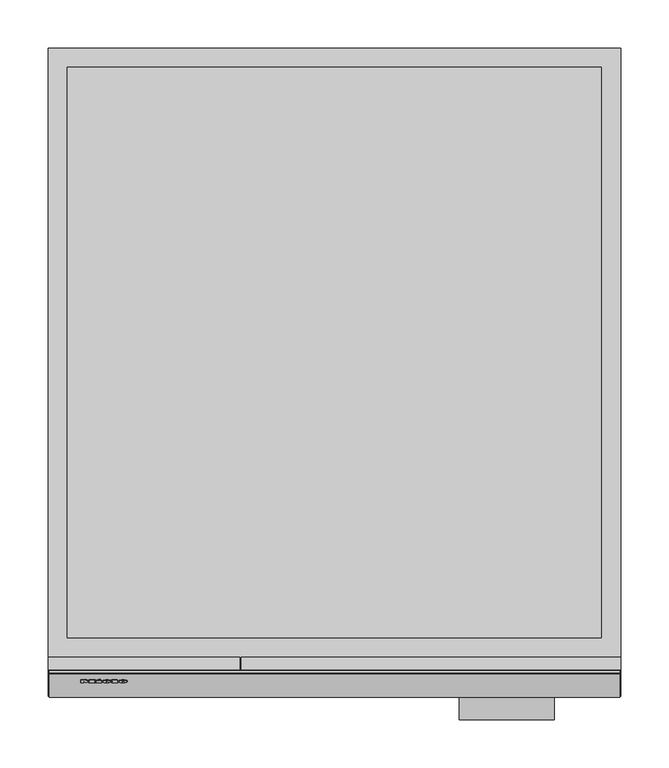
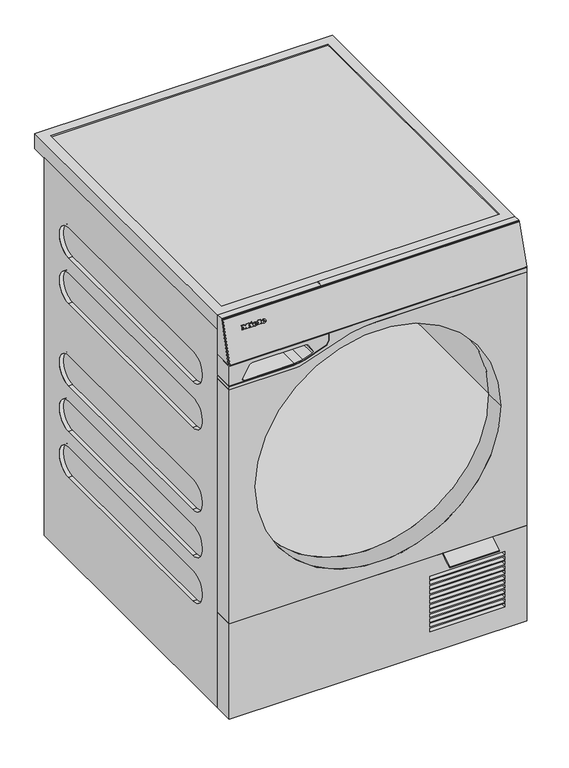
"""IFC4 building model written with IfcOpenShell, lengths in millimetres: proxy geometry, 12695010_EU3_WQ1200WPS_LW : 11Q12002_EU3_12695010_WQ1200WPS_LW."""

from ifc_helpers import new_model, si_unit, point, frame, frame_2d, origin, origin_with_axes, place, context, project, spatial, polyline, circle_curve, ellipse_curve, trimmed, segment, composite_curve, outline, extrude, source, transform, mapped, element, save
from ifc_brep_helpers import plane_surface, cylinder_surface, revolved_surface, extruded_surface, advanced_brep


def specialty_equipment_bc237cf9(model_context):
    return source(origin(), model_context, "Body", "SolidModel", [
        extrude(outline(polyline([(0.0, 0.0), (0.0, -1.304), (-5.576, -1.304), (-7.92, 1.6960001), (-10.256, -1.304), (-15.128, -1.304), (-15.128, 0.0), (-14.112, 0.0), (-14.112, 5.3520001), (-15.128, 5.3520001), (-15.128, 6.6960001), (-8.744, 6.6960001), (-8.744, 5.3520001), (-9.728, 5.3520001), (-9.728, 1.8807777), (-6.136, 6.6960001), (-2.56, 1.9488753), (-2.56, 5.3520001), (-3.52, 5.3520001), (-3.52, 6.6960001), (0.0, 6.6960001), (0.0, 5.3520001), (-0.968, 5.3520001), (-0.968, 0.0), (0.0, 0.0)])), frame((-264.1667108, -657.425371, 823.5606192), z_axis=(0.0, -0.9563047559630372, 0.2923717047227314), x_axis=(-1.0, 0.0, 0.0)), (0.0, 0.0, 1.0), 1.0),
        extrude(outline(polyline([(0.0, 0.0), (0.0, -1.304), (-5.504, -1.304), (-5.504, 5.3520001), (-6.488, 5.3520001), (-6.488, 6.6960001), (0.0, 6.6960001), (0.0, 5.3520001), (-0.96, 5.3520001), (-0.96, 0.0), (0.0, 0.0)])), frame((-231.7027108, -657.425371, 823.5606192), z_axis=(0.0, -0.9563047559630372, 0.2923717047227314), x_axis=(-1.0, 0.0, 0.0)), (0.0, 0.0, 1.0), 1.0),
        extrude(outline(polyline([(0.0, 0.0), (-0.0109086, -2.9993294), (-1.4390415, -2.9920868), (-1.4315307, 0.0), (0.0, 0.0)])), frame((-246.2467108, -657.1821178, 824.3562648), z_axis=(0.0, -0.9563047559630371, 0.29237170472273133), x_axis=(-0.4247202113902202, 0.2646913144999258, 0.8657662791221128)), (0.0, 0.0, 1.0), 1.0),
        extrude(outline(polyline([(-0.4933907, 2.4141097), (-2.7800844, -2.4601583), (-7.0459743, -0.4588766), (-7.4401146, -1.2990179), (-8.656871, -0.7281939), (-5.976037, 4.9862153), (-4.7592806, 4.4153914), (-5.1636143, 3.5535223), (-2.1941494, 2.16044), (-1.7898157, 3.0223091), (-0.4933907, 2.4141097)])), frame((-246.2467108, -657.1821178, 824.3562648), z_axis=(0.0, -0.9563047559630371, 0.29237170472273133), x_axis=(-0.4247202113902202, 0.2646913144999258, 0.8657662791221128)), (0.0, 0.0, 1.0), 1.0),
        advanced_brep(
        [(-237.5027108, -659.78506, 819.2627281), (-237.5027108, -659.5488236, 820.0354223), (-232.1507108, -659.5488236, 820.0354223), (-241.4627108, -659.5488236, 820.0354223), (-239.2627108, -660.3393967, 817.4495743), (-232.2867108, -659.78506, 819.2627281), (-234.7027108, -659.78506, 819.2627281), (-236.6067108, -660.047025, 818.405879), (-237.5027108, -659.249435, 821.0146784), (-237.5027108, -658.9944869, 821.8485761), (-236.1347108, -658.9944869, 821.8485761), (-236.1347108, -659.249435, 821.0146784), (-237.5027108, -658.8287552, 818.9703564), (-236.6067108, -659.0907203, 818.1135073), (-234.7027108, -658.8287552, 818.9703564), (-232.2867108, -658.8287552, 818.9703564), (-239.2627108, -659.383092, 817.1572025), (-241.4627108, -658.5925189, 819.7430506), (-232.1507108, -658.5925189, 819.7430506), (-237.5027108, -658.5925189, 819.7430506), (-237.5027108, -658.2931303, 820.7223067), (-236.1347108, -658.2931303, 820.7223067), (-236.1347108, -658.0381821, 821.5562044), (-237.5027108, -658.0381821, 821.5562044)],
        [
            (0, 1),
            (1, 2),
            (2, 3, ellipse_curve(frame((-236.8067108, -659.5488236, 820.0354223), z_axis=(0.0, -0.9563047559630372, 0.2923717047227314), x_axis=(-1.0, 0.0, 0.0)), 4.656, 3.848)),
            (3, 4, circle_curve(frame((-238.3666672, -659.4692985, 820.2955372), z_axis=(0.0, -0.9563047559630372, 0.2923717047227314), x_axis=(0.0, -0.2923717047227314, -0.9563047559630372)), 3.1079688)),
            (4, 5, circle_curve(frame((-236.8999173, -658.8518095, 822.3152529), z_axis=(0.0, -0.9563047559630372, 0.2923717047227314), x_axis=(0.0, -0.2923717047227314, -0.9563047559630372)), 5.6098607)),
            (5, 6),
            (6, 7, circle_curve(frame((-236.215652, -659.5675354, 819.9742188), z_axis=(0.0, 0.9563047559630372, -0.2923717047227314), x_axis=(0.0, -0.2923717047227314, -0.9563047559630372)), 1.6859795)),
            (7, 0, circle_curve(frame((-236.6067108, -659.78506, 819.2627281), z_axis=(0.0, 0.9563047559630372, -0.2923717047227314), x_axis=(0.0, -0.2923717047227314, -0.9563047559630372)), 0.896)),
            (8, 9),
            (9, 10, circle_curve(frame((-236.8187108, -658.9944869, 821.8485761), z_axis=(0.0, 0.9563047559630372, -0.2923717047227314), x_axis=(0.0, -0.2923717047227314, -0.9563047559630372)), 0.684)),
            (10, 11),
            (11, 8),
            (12, 13, circle_curve(frame((-236.6067108, -658.8287552, 818.9703564), z_axis=(0.0, -0.9563047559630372, 0.2923717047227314), x_axis=(0.0, -0.2923717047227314, -0.9563047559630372)), 0.896)),
            (13, 14, circle_curve(frame((-236.215652, -658.6112307, 819.6818471), z_axis=(0.0, -0.9563047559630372, 0.2923717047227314), x_axis=(0.0, -0.2923717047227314, -0.9563047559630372)), 1.6859795)),
            (14, 15),
            (15, 16, circle_curve(frame((-236.8999173, -657.8955047, 822.0228811), z_axis=(0.0, 0.9563047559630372, -0.2923717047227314), x_axis=(0.0, -0.2923717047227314, -0.9563047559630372)), 5.6098607)),
            (16, 17, circle_curve(frame((-238.3666672, -658.5129938, 820.0031655), z_axis=(0.0, 0.9563047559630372, -0.2923717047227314), x_axis=(0.0, -0.2923717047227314, -0.9563047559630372)), 3.1079688)),
            (17, 18, ellipse_curve(frame((-236.8067108, -658.5925189, 819.7430506), z_axis=(0.0, 0.9563047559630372, -0.2923717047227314), x_axis=(-1.0, 0.0, 0.0)), 4.656, 3.848)),
            (18, 19),
            (19, 12),
            (20, 21),
            (21, 22),
            (22, 23, circle_curve(frame((-236.8187108, -658.0381821, 821.5562044), z_axis=(0.0, -0.9563047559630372, 0.2923717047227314), x_axis=(0.0, -0.2923717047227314, -0.9563047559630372)), 0.684)),
            (23, 20),
            (0, 12),
            (19, 1),
            (18, 2),
            (5, 15),
            (14, 6),
            (17, 3),
            (13, 7),
            (16, 4),
            (8, 20),
            (23, 9),
            (22, 10),
            (21, 11),
        ],
        [
            plane_surface(frame((-237.5027108, -659.5488236, 820.0354223), z_axis=(0.0, -0.9563047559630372, 0.29237170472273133), x_axis=(0.0, 0.29237170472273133, 0.9563047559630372))),
            plane_surface(frame((-237.5027108, -658.5925189, 819.7430506), z_axis=(0.0, 0.9563047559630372, -0.29237170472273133), x_axis=(0.0, -0.29237170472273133, -0.9563047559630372))),
            plane_surface(frame((-237.5027108, -659.78506, 819.2627281), z_axis=(1.0, 0.0, 0.0), x_axis=(0.0, 0.9563047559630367, -0.2923717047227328))),
            plane_surface(frame((-237.5027108, -659.5488236, 820.0354223), z_axis=(0.0, -0.2923717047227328, -0.9563047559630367), x_axis=(0.0, 0.9563047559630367, -0.2923717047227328))),
            plane_surface(frame((-232.2867108, -659.78506, 819.2627281), z_axis=(0.0, 0.2923717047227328, 0.9563047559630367), x_axis=(0.0, 0.9563047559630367, -0.2923717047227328))),
            extruded_surface(trimmed(ellipse_curve(frame((-236.8067108, -657.6362141, 819.4506789), z_axis=(0.0, -0.9563047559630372, 0.2923717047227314), x_axis=(-1.0, 0.0, 0.0)), 4.656, 3.848), [point((-232.1507108, -657.6362141, 819.4506789))], [point((-241.4627108, -657.6362141, 819.4506789))], True, "CARTESIAN"), (0.0, -0.9563047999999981, 0.2923716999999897), 1.0000000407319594),
            revolved_surface(polyline([(-236.215652, -659.1041633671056, 818.0695368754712), (-236.215652, -660.0604681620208, 818.3619085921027)]), (-236.215652, -658.6112307, 819.6818471), (0.0, 0.9563047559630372, -0.2923717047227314)),
            revolved_surface(polyline([(-236.6067108, -659.0907202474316, 818.1135073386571), (-236.6067108, -660.0470250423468, 818.4058790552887)]), (-236.6067108, -658.8287552, 818.9703564), (0.0, 0.9563047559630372, -0.2923717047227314)),
            cylinder_surface(frame((-238.3666672, -658.5129938, 820.0031655), z_axis=(0.0, -0.9563047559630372, 0.2923717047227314), x_axis=(0.0, -0.2923717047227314, -0.9563047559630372)), 3.1079688),
            cylinder_surface(frame((-236.8999173, -657.8955047, 822.0228811), z_axis=(0.0, -0.9563047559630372, 0.2923717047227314), x_axis=(0.0, -0.2923717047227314, -0.9563047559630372)), 5.6098607),
            plane_surface(frame((-237.5027108, -659.249435, 821.0146784), z_axis=(1.0, 0.0, 0.0), x_axis=(0.0, 0.9563047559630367, -0.2923717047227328))),
            revolved_surface(polyline([(-236.8187108, -658.2381643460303, 820.9020919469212), (-236.8187108, -659.1944691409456, 821.1944636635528)]), (-236.8187108, -658.0381821, 821.5562044), (0.0, 0.9563047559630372, -0.2923717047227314)),
            plane_surface(frame((-236.1347108, -658.9944869, 821.8485761), z_axis=(-1.0, 0.0, 0.0), x_axis=(0.0, 0.9563047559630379, -0.29237170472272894))),
            plane_surface(frame((-236.1347108, -659.249435, 821.0146784), z_axis=(0.0, 0.2923717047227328, 0.9563047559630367), x_axis=(0.0, 0.9563047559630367, -0.2923717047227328))),
        ],
        [
            (0, [[1, 2, 3, 4, 5, 6, 7, 8], [9, 10, 11, 12]]),
            (1, [[13, 14, 15, 16, 17, 18, 19, 20], [21, 22, 23, 24]]),
            (2, [[-1, 25, -20, 26]]),
            (3, [[-2, -26, -19, 27]]),
            (4, [[-6, 28, -15, 29]]),
            (5, [[-3, -27, -18, 30]]),
            (6, [[-7, -29, -14, 31]]),
            (7, [[-8, -31, -13, -25]]),
            (8, [[-4, -30, -17, 32]]),
            (9, [[-5, -32, -16, -28]]),
            (10, [[-9, 33, -24, 34]]),
            (11, [[-10, -34, -23, 35]]),
            (12, [[-11, -35, -22, 36]]),
            (13, [[-12, -36, -21, -33]]),
        ],
    ),
        advanced_brep(
        [(-220.8067108, -659.78506, 819.2627281), (-220.8067108, -659.5488236, 820.0354223), (-215.4547108, -659.5488236, 820.0354223), (-224.7667108, -659.5488236, 820.0354223), (-222.5667108, -660.3393967, 817.4495743), (-215.5907108, -659.78506, 819.2627281), (-218.0067108, -659.78506, 819.2627281), (-219.9107108, -660.047025, 818.405879), (-220.8067108, -659.249435, 821.0146784), (-220.8067108, -658.9944869, 821.8485761), (-219.4387108, -658.9944869, 821.8485761), (-219.4387108, -659.249435, 821.0146784), (-220.8067108, -658.8287552, 818.9703564), (-219.9107108, -659.0907203, 818.1135073), (-218.0067108, -658.8287552, 818.9703564), (-215.5907108, -658.8287552, 818.9703564), (-222.5667108, -659.383092, 817.1572025), (-224.7667108, -658.5925189, 819.7430506), (-215.4547108, -658.5925189, 819.7430506), (-220.8067108, -658.5925189, 819.7430506), (-220.8067108, -658.2931303, 820.7223067), (-219.4387108, -658.2931303, 820.7223067), (-219.4387108, -658.0381821, 821.5562044), (-220.8067108, -658.0381821, 821.5562044)],
        [
            (0, 1),
            (1, 2),
            (2, 3, ellipse_curve(frame((-220.1107108, -659.5488236, 820.0354223), z_axis=(0.0, -0.9563047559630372, 0.2923717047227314), x_axis=(-1.0, 0.0, 0.0)), 4.656, 3.848)),
            (3, 4, circle_curve(frame((-221.6706672, -659.4692985, 820.2955372), z_axis=(0.0, -0.9563047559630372, 0.2923717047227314), x_axis=(0.0, -0.2923717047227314, -0.9563047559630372)), 3.1079688)),
            (4, 5, circle_curve(frame((-220.2039173, -658.8518095, 822.3152529), z_axis=(0.0, -0.9563047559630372, 0.2923717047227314), x_axis=(0.0, -0.2923717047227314, -0.9563047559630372)), 5.6098607)),
            (5, 6),
            (6, 7, circle_curve(frame((-219.519652, -659.5675354, 819.9742188), z_axis=(0.0, 0.9563047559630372, -0.2923717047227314), x_axis=(0.0, -0.2923717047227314, -0.9563047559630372)), 1.6859795)),
            (7, 0, circle_curve(frame((-219.9107108, -659.78506, 819.2627281), z_axis=(0.0, 0.9563047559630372, -0.2923717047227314), x_axis=(0.0, -0.2923717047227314, -0.9563047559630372)), 0.896)),
            (8, 9),
            (9, 10, circle_curve(frame((-220.1227108, -658.9944869, 821.8485761), z_axis=(0.0, 0.9563047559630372, -0.2923717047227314), x_axis=(0.0, -0.2923717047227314, -0.9563047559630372)), 0.684)),
            (10, 11),
            (11, 8),
            (12, 13, circle_curve(frame((-219.9107108, -658.8287552, 818.9703564), z_axis=(0.0, -0.9563047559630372, 0.2923717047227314), x_axis=(0.0, -0.2923717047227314, -0.9563047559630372)), 0.896)),
            (13, 14, circle_curve(frame((-219.519652, -658.6112307, 819.6818471), z_axis=(0.0, -0.9563047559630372, 0.2923717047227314), x_axis=(0.0, -0.2923717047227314, -0.9563047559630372)), 1.6859795)),
            (14, 15),
            (15, 16, circle_curve(frame((-220.2039173, -657.8955047, 822.0228811), z_axis=(0.0, 0.9563047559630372, -0.2923717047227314), x_axis=(0.0, -0.2923717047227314, -0.9563047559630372)), 5.6098607)),
            (16, 17, circle_curve(frame((-221.6706672, -658.5129938, 820.0031655), z_axis=(0.0, 0.9563047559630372, -0.2923717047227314), x_axis=(0.0, -0.2923717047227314, -0.9563047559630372)), 3.1079688)),
            (17, 18, ellipse_curve(frame((-220.1107108, -658.5925189, 819.7430506), z_axis=(0.0, 0.9563047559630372, -0.2923717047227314), x_axis=(-1.0, 0.0, 0.0)), 4.656, 3.848)),
            (18, 19),
            (19, 12),
            (20, 21),
            (21, 22),
            (22, 23, circle_curve(frame((-220.1227108, -658.0381821, 821.5562044), z_axis=(0.0, -0.9563047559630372, 0.2923717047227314), x_axis=(0.0, -0.2923717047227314, -0.9563047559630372)), 0.684)),
            (23, 20),
            (0, 12),
            (19, 1),
            (18, 2),
            (5, 15),
            (14, 6),
            (17, 3),
            (13, 7),
            (16, 4),
            (8, 20),
            (23, 9),
            (22, 10),
            (21, 11),
        ],
        [
            plane_surface(frame((-220.8067108, -659.5488236, 820.0354223), z_axis=(0.0, -0.9563047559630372, 0.29237170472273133), x_axis=(0.0, 0.29237170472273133, 0.9563047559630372))),
            plane_surface(frame((-220.8067108, -658.5925189, 819.7430506), z_axis=(0.0, 0.9563047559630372, -0.29237170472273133), x_axis=(0.0, -0.29237170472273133, -0.9563047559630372))),
            plane_surface(frame((-220.8067108, -659.78506, 819.2627281), z_axis=(1.0, 0.0, 0.0), x_axis=(0.0, 0.9563047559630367, -0.2923717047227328))),
            plane_surface(frame((-220.8067108, -659.5488236, 820.0354223), z_axis=(0.0, -0.2923717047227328, -0.9563047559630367), x_axis=(0.0, 0.9563047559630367, -0.2923717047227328))),
            plane_surface(frame((-215.5907108, -659.78506, 819.2627281), z_axis=(0.0, 0.2923717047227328, 0.9563047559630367), x_axis=(0.0, 0.9563047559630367, -0.2923717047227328))),
            extruded_surface(trimmed(ellipse_curve(frame((-220.1107108, -657.6362141, 819.4506789), z_axis=(0.0, -0.9563047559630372, 0.2923717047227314), x_axis=(-1.0, 0.0, 0.0)), 4.656, 3.848), [point((-215.4547108, -657.6362141, 819.4506789))], [point((-224.7667108, -657.6362141, 819.4506789))], True, "CARTESIAN"), (0.0, -0.9563047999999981, 0.2923716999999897), 1.0000000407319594),
            revolved_surface(polyline([(-219.519652, -659.1041633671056, 818.0695368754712), (-219.519652, -660.0604681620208, 818.3619085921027)]), (-219.519652, -658.6112307, 819.6818471), (0.0, 0.9563047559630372, -0.2923717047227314)),
            revolved_surface(polyline([(-219.9107108, -659.0907202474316, 818.1135073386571), (-219.9107108, -660.0470250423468, 818.4058790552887)]), (-219.9107108, -658.8287552, 818.9703564), (0.0, 0.9563047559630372, -0.2923717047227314)),
            cylinder_surface(frame((-221.6706672, -658.5129938, 820.0031655), z_axis=(0.0, -0.9563047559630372, 0.2923717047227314), x_axis=(0.0, -0.2923717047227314, -0.9563047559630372)), 3.1079688),
            cylinder_surface(frame((-220.2039173, -657.8955047, 822.0228811), z_axis=(0.0, -0.9563047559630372, 0.2923717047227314), x_axis=(0.0, -0.2923717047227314, -0.9563047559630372)), 5.6098607),
            plane_surface(frame((-220.8067108, -659.249435, 821.0146784), z_axis=(1.0, 0.0, 0.0), x_axis=(0.0, 0.9563047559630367, -0.2923717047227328))),
            revolved_surface(polyline([(-220.1227108, -658.2381643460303, 820.9020919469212), (-220.1227108, -659.1944691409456, 821.1944636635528)]), (-220.1227108, -658.0381821, 821.5562044), (0.0, 0.9563047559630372, -0.2923717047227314)),
            plane_surface(frame((-219.4387108, -658.9944869, 821.8485761), z_axis=(-1.0, 0.0, 0.0), x_axis=(0.0, 0.9563047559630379, -0.29237170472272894))),
            plane_surface(frame((-219.4387108, -659.249435, 821.0146784), z_axis=(0.0, 0.2923717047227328, 0.9563047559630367), x_axis=(0.0, 0.9563047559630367, -0.2923717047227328))),
        ],
        [
            (0, [[1, 2, 3, 4, 5, 6, 7, 8], [9, 10, 11, 12]]),
            (1, [[13, 14, 15, 16, 17, 18, 19, 20], [21, 22, 23, 24]]),
            (2, [[-1, 25, -20, 26]]),
            (3, [[-2, -26, -19, 27]]),
            (4, [[-6, 28, -15, 29]]),
            (5, [[-3, -27, -18, 30]]),
            (6, [[-7, -29, -14, 31]]),
            (7, [[-8, -31, -13, -25]]),
            (8, [[-4, -30, -17, 32]]),
            (9, [[-5, -32, -16, -28]]),
            (10, [[-9, 33, -24, 34]]),
            (11, [[-10, -34, -23, 35]]),
            (12, [[-11, -35, -22, 36]]),
            (13, [[-12, -36, -21, -33]]),
        ],
    ),
        extrude(outline(composite_curve([segment(polyline([(710.4000001, -167.8774567), (710.4000001, -298.0), (215.6188977, -298.0), (215.6188977, 298.0), (751.9000001, 298.0), (751.9000001, 0.0)]), True, "CONTINUOUS"), segment(trimmed(circle_curve(frame_2d((501.5187296, 1.5017391)), 250.3857741), [point((751.9000001, 0.0))], [point((745.6736814, -54.0085784))], False, "CARTESIAN"), True, "CONTINUOUS"), segment(trimmed(circle_curve(frame_2d((280.8618856, 51.6695993)), 476.6737697), [point((745.6736814, -54.0085784))], [point((714.6452508, -145.9408124))], False, "CARTESIAN"), True, "CONTINUOUS"), segment(trimmed(circle_curve(frame_2d((769.1996504, -167.8774567)), 58.7996503), [point((714.6452508, -145.9408124))], [point((710.4000001, -167.8774567))], True, "CARTESIAN"), True, "CONTINUOUS")], self_intersect=False), holes=[composite_curve([segment(trimmed(circle_curve(frame_2d((487.4000306, 0.0)), 246.0), [point((487.4000306, -246.0))], [point((487.4000306, 246.0))], True, "CARTESIAN"), True, "CONTINUOUS"), segment(trimmed(circle_curve(frame_2d((487.4000306, 0.0)), 246.0), [point((487.4000306, 246.0))], [point((487.4000306, -246.0))], True, "CARTESIAN"), True, "CONTINUOUS")], self_intersect=False)]), frame((0.0, -674.6000366, 0.0), z_axis=(0.0, 1.0, 0.0), x_axis=(0.0, 0.0, 1.0)), (0.0, 0.0, 1.0), 40.6000366),
        extrude(outline(polyline([(-634.0, 762.3), (-671.1042878, 762.3), (-647.2935182, 843.3857744), (-647.3524096, 844.526802), (-647.1160192, 845.3), (-634.0, 845.3), (-634.0, 762.3)])), frame((-97.1149075, 0.0, 0.0), z_axis=(1.0, 0.0, 0.0), x_axis=(0.0, 1.0, 0.0)), (0.0, 0.0, 1.0), 395.1149075),
        extrude(outline(composite_curve([segment(polyline([(751.9000001, 298.0), (761.0, 298.0), (761.0, -96.8820038), (745.9256595, -96.8820038), (737.9773316, -102.3863678), (720.3481445, -149.4685059), (717.0, -167.8774567), (717.0, -298.0), (710.4000001, -298.0), (710.4000001, -167.8774567)]), True, "CONTINUOUS"), segment(trimmed(circle_curve(frame_2d((772.0291409, -168.6248157)), 61.6336721), [point((710.4000001, -167.8774567))], [point((715.7927986, -143.4021406))], False, "CARTESIAN"), True, "CONTINUOUS"), segment(trimmed(circle_curve(frame_2d((280.8618856, 51.6695993)), 476.6737697), [point((715.7927986, -143.4021406))], [point((745.6736814, -54.0085784))], True, "CARTESIAN"), True, "CONTINUOUS"), segment(trimmed(circle_curve(frame_2d((501.6012928, 1.4829678)), 250.3011038), [point((745.6736814, -54.0085784))], [point((751.9000001, 0.3876601))], True, "CARTESIAN"), True, "CONTINUOUS"), segment(polyline([(751.9000001, 0.3876601), (751.9000001, 298.0)]), True, "CONTINUOUS")], self_intersect=False)), frame((0.0, -674.6000366, 0.0), z_axis=(0.0, 1.0, 0.0), x_axis=(0.0, 0.0, 1.0)), (0.0, 0.0, 1.0), 40.6000366),
        extrude(outline(polyline([(-647.2935182, 843.3857744), (-647.3524096, 844.526802), (-647.1160192, 845.3), (-634.0, 845.3), (-634.0, 762.3), (-671.1042878, 762.3), (-647.2935182, 843.3857744)])), frame((-298.0, 0.0, 0.0), z_axis=(1.0, 0.0, 0.0), x_axis=(0.0, 1.0, 0.0)), (0.0, 0.0, 1.0), 199.6360855),
        extrude(outline(polyline([(761.0, -298.0), (718.8, -298.0), (718.8, -167.8807468), (722.0340322, -150.0992146), (739.4902815, -103.47678), (746.4139612, -98.6820038), (761.0, -98.6820038), (761.0, -298.0)]), holes=[composite_curve([segment(polyline([(752.2634277, -251.4616852), (752.2634277, -145.0555023)]), True, "CONTINUOUS"), segment(trimmed(circle_curve(frame_2d((744.2488327, -145.0555023)), 8.014595), [point((752.2634277, -145.0555023))], [point((749.1478052, -138.7124903))], True, "CARTESIAN"), True, "CONTINUOUS"), segment(polyline([(749.1478052, -138.7124903), (734.3301906, -130.3850664)]), True, "CONTINUOUS"), segment(trimmed(circle_curve(frame_2d((734.0907283, -133.6964831)), 3.3200637), [point((734.3301906, -130.3850664))], [point((730.9832764, -132.5274811))], True, "CARTESIAN"), True, "CONTINUOUS"), segment(polyline([(730.9832764, -132.5274811), (724.1028442, -150.8171082), (721.0, -167.832509), (721.0, -268.6459351)]), True, "CONTINUOUS"), segment(trimmed(circle_curve(frame_2d((723.9169735, -268.6459351)), 2.9169735), [point((721.0, -268.6459351))], [point((724.0558472, -271.5596008))], True, "CARTESIAN"), True, "CONTINUOUS"), segment(polyline([(724.0558472, -271.5596008), (749.4986329, -256.9425364)]), True, "CONTINUOUS"), segment(trimmed(circle_curve(frame_2d((745.448488, -251.4616852)), 6.8149398), [point((749.4986329, -256.9425364))], [point((752.2634277, -251.4616852))], True, "CARTESIAN"), True, "CONTINUOUS")], self_intersect=False)]), frame((0.0, -674.6000366, 0.0), z_axis=(0.0, 1.0, 0.0), x_axis=(0.0, 0.0, 1.0)), (0.0, 0.0, 1.0), 40.6000366),
        extrude(outline(composite_curve([segment(polyline([(-675.8582159, 763.5195004), (-651.0181996, 844.7675328)]), True, "CONTINUOUS"), segment(trimmed(circle_curve(frame_2d((-649.5364467, 842.2655288)), 2.9078541), [point((-651.0181996, 844.7675328))], [point((-650.1348956, 845.1111349))], False, "CARTESIAN"), True, "CONTINUOUS"), segment(trimmed(circle_curve(frame_2d((-649.5998044, 842.5667927)), 2.6), [point((-650.1348956, 845.1111349))], [point((-647.7334156, 844.3769288))], False, "CARTESIAN"), True, "CONTINUOUS"), segment(trimmed(circle_curve(frame_2d((-649.821586, 842.3516956)), 2.908956), [point((-647.7334156, 844.3769288))], [point((-647.19305, 843.5978189))], False, "CARTESIAN"), True, "CONTINUOUS"), segment(polyline([(-647.19305, 843.5978189), (-672.0329919, 762.3500298)]), True, "CONTINUOUS"), segment(trimmed(circle_curve(frame_2d((-673.0377739, 763.6260704)), 1.624151), [point((-672.0329919, 762.3500298))], [point((-672.9166069, 762.0064454))], False, "CARTESIAN"), True, "CONTINUOUS"), segment(trimmed(circle_curve(frame_2d((-673.4851726, 764.4409337)), 2.5), [point((-672.9166069, 762.0064454))], [point((-675.3178834, 762.7405893))], False, "CARTESIAN"), True, "CONTINUOUS"), segment(trimmed(circle_curve(frame_2d((-674.3324119, 764.0010837)), 1.6), [point((-675.3178834, 762.7405893))], [point((-675.8582159, 763.5195004))], False, "CARTESIAN"), True, "CONTINUOUS")], self_intersect=False)), frame((-296.6980896, 0.0, 0.0), z_axis=(1.0, 0.0, 0.0), x_axis=(0.0, 1.0, 0.0)), (0.0, 0.0, 1.0), 593.8151855),
        extrude(outline(polyline([(215.6188977, 298.0), (215.6188977, -298.0), (13.0, -298.0), (13.0, 298.0), (215.6188977, 298.0)]), holes=[polyline([(175.1999969, 104.351307), (175.1999969, 254.1512245), (167.8845367, 254.1512245), (167.8845367, 104.351307), (175.1999969, 104.351307)]), polyline([(165.1999969, 104.351307), (165.1999969, 254.1512245), (157.8845367, 254.1512245), (157.8845367, 104.351307), (165.1999969, 104.351307)]), polyline([(155.1999969, 104.351307), (155.1999969, 254.1512245), (147.8845367, 254.1512245), (147.8845367, 104.351307), (155.1999969, 104.351307)]), polyline([(145.1999969, 104.351307), (145.1999969, 254.1512245), (137.8845367, 254.1512245), (137.8845367, 104.351307), (145.1999969, 104.351307)]), polyline([(105.1999969, 104.351307), (105.1999969, 254.1512245), (97.8845367, 254.1512245), (97.8845367, 104.351307), (105.1999969, 104.351307)]), polyline([(95.1999969, 104.351307), (95.1999969, 254.1512245), (87.8845367, 254.1512245), (87.8845367, 104.351307), (95.1999969, 104.351307)]), polyline([(85.1999969, 104.351307), (85.1999969, 254.1512245), (77.8845367, 254.1512245), (77.8845367, 104.351307), (85.1999969, 104.351307)]), polyline([(75.1999969, 104.351307), (75.1999969, 254.1512245), (67.8845367, 254.1512245), (67.8845367, 104.351307), (75.1999969, 104.351307)]), polyline([(135.1999969, 104.351307), (135.1999969, 254.1512245), (127.8845367, 254.1512245), (127.8845367, 104.351307), (135.1999969, 104.351307)]), polyline([(125.1999969, 104.351307), (125.1999969, 254.1512245), (117.8845367, 254.1512245), (117.8845367, 104.351307), (125.1999969, 104.351307)]), polyline([(115.1999969, 104.351307), (115.1999969, 254.1512245), (107.8845367, 254.1512245), (107.8845367, 104.351307), (115.1999969, 104.351307)]), polyline([(65.1999969, 104.351307), (65.1999969, 254.1512245), (57.8845367, 254.1512245), (57.8845367, 104.351307), (65.1999969, 104.351307)])]), frame((0.0, -674.6000366, 0.0), z_axis=(0.0, 1.0, 0.0), x_axis=(0.0, 0.0, 1.0)), (0.0, 0.0, 1.0), 40.6000366),
        extrude(outline(polyline([(-674.6000366, 215.6188977), (-674.6000366, 213.6073379), (-686.924765, 204.1588655), (-698.9382767, 199.0372682), (-699.1662735, 201.4449525), (-674.6000366, 215.6188977)])), frame((129.8000031, 0.0, 0.0), z_axis=(1.0, 0.0, 0.0), x_axis=(0.0, 1.0, 0.0)), (0.0, 0.0, 1.0), 99.0),
        advanced_brep(
        [(298.0, -634.0, 813.1000123), (298.0, -634.0, 13.4000001), (298.0, -32.0, 13.4000001), (298.0, -32.0, 813.1000123), (298.0, -549.0000366, 652.6953492), (298.0, -549.0000366, 716.104712), (298.0, -117.0, 716.104712), (298.0, -117.0, 652.6953492), (298.0, -549.0000366, 555.6952919), (298.0, -549.0000366, 619.1046547), (298.0, -117.0, 619.1046547), (298.0, -117.0, 555.6952919), (298.0, -549.0000366, 381.6953492), (298.0, -549.0000366, 445.104712), (298.0, -117.0, 445.104712), (298.0, -117.0, 381.6953492), (298.0, -549.0000366, 284.6952919), (298.0, -549.0000366, 348.1046547), (298.0, -117.0, 348.1046547), (298.0, -117.0, 284.6952919), (298.0, -549.0000366, 250.9805145), (298.0, -117.0, 250.9805145), (298.0, -117.0, 187.5711517), (298.0, -549.0000366, 187.5711517), (-298.0, -634.0, 813.1000123), (-298.0, -32.0, 813.1000123), (-298.0, -32.0, 13.4000001), (-298.0, -634.0, 13.4000001), (-298.0, -549.0000366, 716.104712), (-298.0, -549.0000366, 652.6953492), (-298.0, -117.1007385, 652.6953492), (-298.0, -117.1007385, 716.104712), (-298.0, -549.0000366, 619.1046547), (-298.0, -549.0000366, 555.6952919), (-298.0, -117.1007385, 555.6952919), (-298.0, -117.1007385, 619.1046547), (-298.0, -549.0000366, 445.104712), (-298.0, -549.0000366, 381.6953492), (-298.0, -117.0, 381.6953492), (-298.0, -117.0, 445.104712), (-298.0, -549.0000366, 348.1046547), (-298.0, -549.0000366, 284.6952919), (-298.0, -117.0, 284.6952919), (-298.0, -117.0, 348.1046547), (-298.0, -549.0000366, 251.104712), (-298.0, -549.0000366, 187.6953492), (-298.0, -117.0, 187.6953492), (-298.0, -117.0, 251.104712), (246.0, -634.0, 487.4), (-246.0, -634.0, 487.4), (-289.8140699, -549.0000366, 716.104712), (-289.8140699, -117.1007385, 716.104712), (-289.8140699, -117.1007385, 652.6953492), (-289.8140699, -549.0000366, 652.6953492), (-289.8140699, -549.0000366, 619.1046547), (-289.8140699, -117.1007385, 619.1046547), (-289.8140699, -117.1007385, 555.6952919), (-289.8140699, -549.0000366, 555.6952919), (-289.8140699, -549.0000366, 445.104712), (-289.8140699, -117.0, 445.104712), (-289.8140699, -117.0, 381.6953492), (-289.8140699, -549.0000366, 381.6953492), (-289.8140699, -549.0000366, 348.1046547), (-289.8140699, -117.0, 348.1046547), (-289.8140699, -117.0, 284.6952919), (-289.8140699, -549.0000366, 284.6952919), (-289.8140699, -549.0000366, 251.104712), (-289.8140699, -117.0, 251.104712), (-289.8140699, -117.0, 187.6953492), (-289.8140699, -549.0000366, 187.6953492), (289.8140699, -549.0000366, 716.104712), (289.8140699, -549.0000366, 652.6953492), (289.8140699, -117.0, 652.6953492), (289.8140699, -117.0, 716.104712), (289.8140699, -549.0000366, 619.1046547), (289.8140699, -549.0000366, 555.6952919), (289.8140699, -117.0, 555.6952919), (289.8140699, -117.0, 619.1046547), (289.8140699, -549.0000366, 445.104712), (289.8140699, -549.0000366, 381.6953492), (289.8140699, -117.0, 381.6953492), (289.8140699, -117.0, 445.104712), (289.8140699, -549.0000366, 348.1046547), (289.8140699, -549.0000366, 284.6952919), (289.8140699, -117.0, 284.6952919), (289.8140699, -117.0, 348.1046547), (289.8140699, -549.0000366, 250.9805145), (289.8140699, -549.0000366, 187.5711517), (289.8140699, -117.0, 187.5711517), (289.8140699, -117.0, 250.9805145), (-246.0, -154.1771988, 487.4), (246.0, -154.1771988, 487.4)],
        [
            (0, 1),
            (1, 2),
            (2, 3),
            (3, 0),
            (4, 5, circle_curve(frame((298.0, -549.0000366, 684.4000306), z_axis=(-1.0, 0.0, 0.0), x_axis=(0.0, 1.0, 0.0)), 31.7046814)),
            (5, 6),
            (6, 7, circle_curve(frame((298.0, -117.0, 684.4000306), z_axis=(-1.0, 0.0, 0.0), x_axis=(0.0, 1.0, 0.0)), 31.7046814)),
            (7, 4),
            (8, 9, circle_curve(frame((298.0, -549.0000366, 587.3999733), z_axis=(-1.0, 0.0, 0.0), x_axis=(0.0, 1.0, 0.0)), 31.7046814)),
            (9, 10),
            (10, 11, circle_curve(frame((298.0, -117.0, 587.3999733), z_axis=(-1.0, 0.0, 0.0), x_axis=(0.0, 1.0, 0.0)), 31.7046814)),
            (11, 8),
            (12, 13, circle_curve(frame((298.0, -549.0000366, 413.4000306), z_axis=(-1.0, 0.0, 0.0), x_axis=(0.0, 1.0, 0.0)), 31.7046814)),
            (13, 14),
            (14, 15, circle_curve(frame((298.0, -117.0, 413.4000306), z_axis=(-1.0, 0.0, 0.0), x_axis=(0.0, 1.0, 0.0)), 31.7046814)),
            (15, 12),
            (16, 17, circle_curve(frame((298.0, -549.0000366, 316.3999733), z_axis=(-1.0, 0.0, 0.0), x_axis=(0.0, 1.0, 0.0)), 31.7046814)),
            (17, 18),
            (18, 19, circle_curve(frame((298.0, -117.0, 316.3999733), z_axis=(-1.0, 0.0, 0.0), x_axis=(0.0, 1.0, 0.0)), 31.7046814)),
            (19, 16),
            (20, 21),
            (21, 22, circle_curve(frame((298.0, -117.0, 219.2758331), z_axis=(-1.0, 0.0, 0.0), x_axis=(0.0, 1.0, 0.0)), 31.7046814)),
            (22, 23),
            (23, 20, circle_curve(frame((298.0, -549.0000366, 219.2758331), z_axis=(-1.0, 0.0, 0.0), x_axis=(0.0, 1.0, 0.0)), 31.7046814)),
            (24, 25),
            (25, 26),
            (26, 27),
            (27, 24),
            (28, 29, circle_curve(frame((-298.0, -549.0000366, 684.4000306), z_axis=(1.0, 0.0, 0.0), x_axis=(0.0, 1.0, 0.0)), 31.7046814)),
            (29, 30),
            (30, 31, circle_curve(frame((-298.0, -117.1007385, 684.4000306), z_axis=(1.0, 0.0, 0.0), x_axis=(0.0, 1.0, 0.0)), 31.7046814)),
            (31, 28),
            (32, 33, circle_curve(frame((-298.0, -549.0000366, 587.3999733), z_axis=(1.0, 0.0, 0.0), x_axis=(0.0, 1.0, 0.0)), 31.7046814)),
            (33, 34),
            (34, 35, circle_curve(frame((-298.0, -117.1007385, 587.3999733), z_axis=(1.0, 0.0, 0.0), x_axis=(0.0, 1.0, 0.0)), 31.7046814)),
            (35, 32),
            (36, 37, circle_curve(frame((-298.0, -549.0000366, 413.4000306), z_axis=(1.0, 0.0, 0.0), x_axis=(0.0, 1.0, 0.0)), 31.7046814)),
            (37, 38),
            (38, 39, circle_curve(frame((-298.0, -117.0, 413.4000306), z_axis=(1.0, 0.0, 0.0), x_axis=(0.0, 1.0, 0.0)), 31.7046814)),
            (39, 36),
            (40, 41, circle_curve(frame((-298.0, -549.0000366, 316.3999733), z_axis=(1.0, 0.0, 0.0), x_axis=(0.0, 1.0, 0.0)), 31.7046814)),
            (41, 42),
            (42, 43, circle_curve(frame((-298.0, -117.0, 316.3999733), z_axis=(1.0, 0.0, 0.0), x_axis=(0.0, 1.0, 0.0)), 31.7046814)),
            (43, 40),
            (44, 45, circle_curve(frame((-298.0, -549.0000366, 219.4000306), z_axis=(1.0, 0.0, 0.0), x_axis=(0.0, 1.0, 0.0)), 31.7046814)),
            (45, 46),
            (46, 47, circle_curve(frame((-298.0, -117.0, 219.4000306), z_axis=(1.0, 0.0, 0.0), x_axis=(0.0, 1.0, 0.0)), 31.7046814)),
            (47, 44),
            (0, 24),
            (27, 1),
            (48, 49, circle_curve(frame((0.0, -634.0, 487.4), z_axis=(0.0, 1.0, 0.0), x_axis=(1.0, 0.0, 0.0)), 246.0)),
            (49, 48, circle_curve(frame((0.0, -634.0, 487.4), z_axis=(0.0, 1.0, 0.0), x_axis=(1.0, 0.0, 0.0)), 246.0)),
            (26, 2),
            (25, 3),
            (50, 51),
            (51, 52, circle_curve(frame((-289.8140699, -117.1007385, 684.4000306), z_axis=(-1.0, 0.0, 0.0), x_axis=(0.0, 1.0, 0.0)), 31.7046814)),
            (52, 53),
            (53, 50, circle_curve(frame((-289.8140699, -549.0000366, 684.4000306), z_axis=(-1.0, 0.0, 0.0), x_axis=(0.0, 1.0, 0.0)), 31.7046814)),
            (54, 55),
            (55, 56, circle_curve(frame((-289.8140699, -117.1007385, 587.3999733), z_axis=(-1.0, 0.0, 0.0), x_axis=(0.0, 1.0, 0.0)), 31.7046814)),
            (56, 57),
            (57, 54, circle_curve(frame((-289.8140699, -549.0000366, 587.3999733), z_axis=(-1.0, 0.0, 0.0), x_axis=(0.0, 1.0, 0.0)), 31.7046814)),
            (58, 59),
            (59, 60, circle_curve(frame((-289.8140699, -117.0, 413.4000306), z_axis=(-1.0, 0.0, 0.0), x_axis=(0.0, 1.0, 0.0)), 31.7046814)),
            (60, 61),
            (61, 58, circle_curve(frame((-289.8140699, -549.0000366, 413.4000306), z_axis=(-1.0, 0.0, 0.0), x_axis=(0.0, 1.0, 0.0)), 31.7046814)),
            (62, 63),
            (63, 64, circle_curve(frame((-289.8140699, -117.0, 316.3999733), z_axis=(-1.0, 0.0, 0.0), x_axis=(0.0, 1.0, 0.0)), 31.7046814)),
            (64, 65),
            (65, 62, circle_curve(frame((-289.8140699, -549.0000366, 316.3999733), z_axis=(-1.0, 0.0, 0.0), x_axis=(0.0, 1.0, 0.0)), 31.7046814)),
            (66, 67),
            (67, 68, circle_curve(frame((-289.8140699, -117.0, 219.4000306), z_axis=(-1.0, 0.0, 0.0), x_axis=(0.0, 1.0, 0.0)), 31.7046814)),
            (68, 69),
            (69, 66, circle_curve(frame((-289.8140699, -549.0000366, 219.4000306), z_axis=(-1.0, 0.0, 0.0), x_axis=(0.0, 1.0, 0.0)), 31.7046814)),
            (53, 29),
            (28, 50),
            (52, 30),
            (51, 31),
            (57, 33),
            (32, 54),
            (56, 34),
            (55, 35),
            (61, 37),
            (36, 58),
            (60, 38),
            (59, 39),
            (65, 41),
            (40, 62),
            (64, 42),
            (63, 43),
            (70, 71, circle_curve(frame((289.8140699, -549.0000366, 684.4000306), z_axis=(1.0, 0.0, 0.0), x_axis=(0.0, 1.0, 0.0)), 31.7046814)),
            (71, 72),
            (72, 73, circle_curve(frame((289.8140699, -117.0, 684.4000306), z_axis=(1.0, 0.0, 0.0), x_axis=(0.0, 1.0, 0.0)), 31.7046814)),
            (73, 70),
            (74, 75, circle_curve(frame((289.8140699, -549.0000366, 587.3999733), z_axis=(1.0, 0.0, 0.0), x_axis=(0.0, 1.0, 0.0)), 31.7046814)),
            (75, 76),
            (76, 77, circle_curve(frame((289.8140699, -117.0, 587.3999733), z_axis=(1.0, 0.0, 0.0), x_axis=(0.0, 1.0, 0.0)), 31.7046814)),
            (77, 74),
            (78, 79, circle_curve(frame((289.8140699, -549.0000366, 413.4000306), z_axis=(1.0, 0.0, 0.0), x_axis=(0.0, 1.0, 0.0)), 31.7046814)),
            (79, 80),
            (80, 81, circle_curve(frame((289.8140699, -117.0, 413.4000306), z_axis=(1.0, 0.0, 0.0), x_axis=(0.0, 1.0, 0.0)), 31.7046814)),
            (81, 78),
            (82, 83, circle_curve(frame((289.8140699, -549.0000366, 316.3999733), z_axis=(1.0, 0.0, 0.0), x_axis=(0.0, 1.0, 0.0)), 31.7046814)),
            (83, 84),
            (84, 85, circle_curve(frame((289.8140699, -117.0, 316.3999733), z_axis=(1.0, 0.0, 0.0), x_axis=(0.0, 1.0, 0.0)), 31.7046814)),
            (85, 82),
            (86, 87, circle_curve(frame((289.8140699, -549.0000366, 219.2758331), z_axis=(1.0, 0.0, 0.0), x_axis=(0.0, 1.0, 0.0)), 31.7046814)),
            (87, 88),
            (88, 89, circle_curve(frame((289.8140699, -117.0, 219.2758331), z_axis=(1.0, 0.0, 0.0), x_axis=(0.0, 1.0, 0.0)), 31.7046814)),
            (89, 86),
            (70, 5),
            (4, 71),
            (7, 72),
            (6, 73),
            (74, 9),
            (8, 75),
            (11, 76),
            (10, 77),
            (78, 13),
            (12, 79),
            (15, 80),
            (14, 81),
            (82, 17),
            (16, 83),
            (19, 84),
            (18, 85),
            (69, 45),
            (44, 66),
            (68, 46),
            (67, 47),
            (89, 21),
            (20, 86),
            (88, 22),
            (87, 23),
            (90, 91, circle_curve(frame((0.0, -154.1771988, 487.4), z_axis=(0.0, -1.0, 0.0), x_axis=(1.0, 0.0, 0.0)), 246.0)),
            (91, 90, circle_curve(frame((0.0, -154.1771988, 487.4), z_axis=(0.0, -1.0, 0.0), x_axis=(1.0, 0.0, 0.0)), 246.0)),
            (90, 49),
            (48, 91),
        ],
        [
            plane_surface(frame((298.0, -634.0, 813.1000123), z_axis=(1.0, 0.0, 0.0), x_axis=(0.0, 0.0, -1.0))),
            plane_surface(frame((-298.0, -634.0, 813.1000123), z_axis=(-1.0, 0.0, 0.0), x_axis=(0.0, 0.0, 1.0))),
            plane_surface(frame((298.0, -634.0, 813.1000123), z_axis=(0.0, -1.0, 0.0), x_axis=(-1.0, 0.0, 0.0))),
            plane_surface(frame((298.0, -634.0, 13.4000001), z_axis=(0.0, 0.0, -1.0), x_axis=(-1.0, 0.0, 0.0))),
            plane_surface(frame((298.0, -32.0, 13.4000001), z_axis=(0.0, 1.0, 0.0), x_axis=(-1.0, 0.0, 0.0))),
            plane_surface(frame((298.0, -32.0, 813.1000123), z_axis=(0.0, 0.0, 1.0), x_axis=(-1.0, 0.0, 0.0))),
            plane_surface(frame((-289.8140699, -517.2953552, 684.4000306), z_axis=(-1.0, 0.0, 0.0), x_axis=(0.0, 0.0, 1.0))),
            revolved_surface(polyline([(-289.8140699, -517.2953552, 684.4000306), (-298.0, -517.2953552, 684.4000306)]), (-305.7094305, -549.0000366, 684.4000306), (1.0, 0.0, 0.0)),
            plane_surface(frame((-289.8140699, -549.0000366, 652.6953492), z_axis=(0.0, 0.0, 1.0), x_axis=(-1.0, 0.0, 0.0))),
            revolved_surface(polyline([(-289.8140699, -85.39605710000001, 684.4000306), (-298.0, -85.39605710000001, 684.4000306)]), (-305.7094305, -117.1007385, 684.4000306), (1.0, 0.0, 0.0)),
            plane_surface(frame((-289.8140699, -117.1007385, 716.104712), z_axis=(0.0, 0.0, -1.0), x_axis=(-1.0, 0.0, 0.0))),
            revolved_surface(polyline([(-289.8140699, -517.2953552, 587.3999733), (-298.0, -517.2953552, 587.3999733)]), (0.0, -549.0000366, 587.3999733), (1.0, 0.0, 0.0)),
            plane_surface(frame((-289.8140699, -549.0000366, 555.6952919), z_axis=(0.0, 0.0, 1.0), x_axis=(-1.0, 0.0, 0.0))),
            revolved_surface(polyline([(-289.8140699, -85.39605710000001, 587.3999733), (-298.0, -85.39605710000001, 587.3999733)]), (0.0, -117.1007385, 587.3999733), (1.0, 0.0, 0.0)),
            plane_surface(frame((-289.8140699, -117.1007385, 619.1046547), z_axis=(0.0, 0.0, -1.0), x_axis=(-1.0, 0.0, 0.0))),
            revolved_surface(polyline([(-289.8140699, -517.2953552, 413.4000306), (-298.0, -517.2953552, 413.4000306)]), (0.0, -549.0000366, 413.4000306), (1.0, 0.0, 0.0)),
            plane_surface(frame((-289.8140699, -549.0000366, 381.6953492), z_axis=(0.0, 0.0, 1.0), x_axis=(-1.0, 0.0, 0.0))),
            revolved_surface(polyline([(-289.8140699, -85.2953186, 413.4000306), (-298.0, -85.2953186, 413.4000306)]), (0.0, -117.0, 413.4000306), (1.0, 0.0, 0.0)),
            plane_surface(frame((-289.8140699, -117.0, 445.104712), z_axis=(0.0, 0.0, -1.0), x_axis=(-1.0, 0.0, 0.0))),
            revolved_surface(polyline([(-289.8140699, -517.2953552, 316.3999733), (-298.0, -517.2953552, 316.3999733)]), (0.0, -549.0000366, 316.3999733), (1.0, 0.0, 0.0)),
            plane_surface(frame((-289.8140699, -549.0000366, 284.6952919), z_axis=(0.0, 0.0, 1.0), x_axis=(-1.0, 0.0, 0.0))),
            revolved_surface(polyline([(-289.8140699, -85.2953186, 316.3999733), (-298.0, -85.2953186, 316.3999733)]), (0.0, -117.0, 316.3999733), (1.0, 0.0, 0.0)),
            plane_surface(frame((-289.8140699, -117.0, 348.1046547), z_axis=(0.0, 0.0, -1.0), x_axis=(-1.0, 0.0, 0.0))),
            plane_surface(frame((289.8140699, -117.0, 716.104712), z_axis=(1.0, 0.0, 0.0), x_axis=(0.0, 1.0, 0.0))),
            revolved_surface(polyline([(289.8140699, -517.2953552, 684.4000306), (298.0, -517.2953552, 684.4000306)]), (305.7094305, -549.0000366, 684.4000306), (-1.0, 0.0, 0.0)),
            plane_surface(frame((289.8140699, -117.0, 652.6953492), z_axis=(0.0, 0.0, 1.0), x_axis=(1.0, 0.0, 0.0))),
            revolved_surface(polyline([(289.8140699, -85.2953186, 684.4000306), (298.0, -85.2953186, 684.4000306)]), (305.7094305, -117.0, 684.4000306), (-1.0, 0.0, 0.0)),
            plane_surface(frame((289.8140699, -549.0000366, 716.104712), z_axis=(0.0, 0.0, -1.0), x_axis=(1.0, 0.0, 0.0))),
            revolved_surface(polyline([(289.8140699, -517.2953552, 587.3999733), (298.0, -517.2953552, 587.3999733)]), (0.0, -549.0000366, 587.3999733), (-1.0, 0.0, 0.0)),
            plane_surface(frame((289.8140699, -117.0, 555.6952919), z_axis=(0.0, 0.0, 1.0), x_axis=(1.0, 0.0, 0.0))),
            revolved_surface(polyline([(289.8140699, -85.2953186, 587.3999733), (298.0, -85.2953186, 587.3999733)]), (0.0, -117.0, 587.3999733), (-1.0, 0.0, 0.0)),
            plane_surface(frame((289.8140699, -549.0000366, 619.1046547), z_axis=(0.0, 0.0, -1.0), x_axis=(1.0, 0.0, 0.0))),
            revolved_surface(polyline([(289.8140699, -517.2953552, 413.4000306), (298.0, -517.2953552, 413.4000306)]), (0.0, -549.0000366, 413.4000306), (-1.0, 0.0, 0.0)),
            plane_surface(frame((289.8140699, -117.0, 381.6953492), z_axis=(0.0, 0.0, 1.0), x_axis=(1.0, 0.0, 0.0))),
            revolved_surface(polyline([(289.8140699, -85.2953186, 413.4000306), (298.0, -85.2953186, 413.4000306)]), (0.0, -117.0, 413.4000306), (-1.0, 0.0, 0.0)),
            plane_surface(frame((289.8140699, -549.0000366, 445.104712), z_axis=(0.0, 0.0, -1.0), x_axis=(1.0, 0.0, 0.0))),
            revolved_surface(polyline([(289.8140699, -517.2953552, 316.3999733), (298.0, -517.2953552, 316.3999733)]), (0.0, -549.0000366, 316.3999733), (-1.0, 0.0, 0.0)),
            plane_surface(frame((289.8140699, -117.0, 284.6952919), z_axis=(0.0, 0.0, 1.0), x_axis=(1.0, 0.0, 0.0))),
            revolved_surface(polyline([(289.8140699, -85.2953186, 316.3999733), (298.0, -85.2953186, 316.3999733)]), (0.0, -117.0, 316.3999733), (-1.0, 0.0, 0.0)),
            plane_surface(frame((289.8140699, -549.0000366, 348.1046547), z_axis=(0.0, 0.0, -1.0), x_axis=(1.0, 0.0, 0.0))),
            revolved_surface(polyline([(-289.8140699, -517.2953552, 219.4000306), (-298.0, -517.2953552, 219.4000306)]), (0.0, -549.0000366, 219.4000306), (1.0, 0.0, 0.0)),
            plane_surface(frame((-289.8140699, -549.0000366, 187.6953492), z_axis=(0.0, 0.0, 1.0), x_axis=(-1.0, 0.0, 0.0))),
            revolved_surface(polyline([(-289.8140699, -85.2953186, 219.4000306), (-298.0, -85.2953186, 219.4000306)]), (0.0, -117.0, 219.4000306), (1.0, 0.0, 0.0)),
            plane_surface(frame((-289.8140699, -117.0, 251.104712), z_axis=(0.0, 0.0, -1.0), x_axis=(-1.0, 0.0, 0.0))),
            plane_surface(frame((289.8140699, -549.0000366, 250.9805145), z_axis=(0.0, 0.0, -1.0), x_axis=(1.0, 0.0, 0.0))),
            revolved_surface(polyline([(289.8140699, -85.2953186, 219.2758331), (298.0, -85.2953186, 219.2758331)]), (0.0, -117.0, 219.2758331), (-1.0, 0.0, 0.0)),
            plane_surface(frame((289.8140699, -117.0, 187.5711517), z_axis=(0.0, 0.0, 1.0), x_axis=(1.0, 0.0, 0.0))),
            revolved_surface(polyline([(289.8140699, -517.2953552, 219.2758331), (298.0, -517.2953552, 219.2758331)]), (0.0, -549.0000366, 219.2758331), (-1.0, 0.0, 0.0)),
            plane_surface(frame((246.0, -154.1771988, 487.4), z_axis=(0.0, -1.0, 0.0), x_axis=(0.0, 0.0, -1.0))),
            revolved_surface(polyline([(246.0, -634.0, 487.4), (246.0, -154.1771988, 487.4)]), (0.0, -154.1771988, 487.4), (0.0, -1.0, 0.0)),
        ],
        [
            (0, [[1, 2, 3, 4], [5, 6, 7, 8], [9, 10, 11, 12], [13, 14, 15, 16], [17, 18, 19, 20], [21, 22, 23, 24]]),
            (1, [[25, 26, 27, 28], [29, 30, 31, 32], [33, 34, 35, 36], [37, 38, 39, 40], [41, 42, 43, 44], [45, 46, 47, 48]]),
            (2, [[-1, 49, -28, 50], [51, 52]]),
            (3, [[-2, -50, -27, 53]]),
            (4, [[-3, -53, -26, 54]]),
            (5, [[-4, -54, -25, -49]]),
            (6, [[55, 56, 57, 58]]),
            (6, [[59, 60, 61, 62]]),
            (6, [[63, 64, 65, 66]]),
            (6, [[67, 68, 69, 70]]),
            (6, [[71, 72, 73, 74]]),
            (7, [[-58, 75, -29, 76]]),
            (8, [[-57, 77, -30, -75]]),
            (9, [[-56, 78, -31, -77]]),
            (10, [[-55, -76, -32, -78]]),
            (11, [[-62, 79, -33, 80]]),
            (12, [[-61, 81, -34, -79]]),
            (13, [[-60, 82, -35, -81]]),
            (14, [[-59, -80, -36, -82]]),
            (15, [[-66, 83, -37, 84]]),
            (16, [[-65, 85, -38, -83]]),
            (17, [[-64, 86, -39, -85]]),
            (18, [[-63, -84, -40, -86]]),
            (19, [[-70, 87, -41, 88]]),
            (20, [[-69, 89, -42, -87]]),
            (21, [[-68, 90, -43, -89]]),
            (22, [[-67, -88, -44, -90]]),
            (23, [[91, 92, 93, 94]]),
            (23, [[95, 96, 97, 98]]),
            (23, [[99, 100, 101, 102]]),
            (23, [[103, 104, 105, 106]]),
            (23, [[107, 108, 109, 110]]),
            (24, [[-91, 111, -5, 112]]),
            (25, [[-92, -112, -8, 113]]),
            (26, [[-93, -113, -7, 114]]),
            (27, [[-94, -114, -6, -111]]),
            (28, [[-95, 115, -9, 116]]),
            (29, [[-96, -116, -12, 117]]),
            (30, [[-97, -117, -11, 118]]),
            (31, [[-98, -118, -10, -115]]),
            (32, [[-99, 119, -13, 120]]),
            (33, [[-100, -120, -16, 121]]),
            (34, [[-101, -121, -15, 122]]),
            (35, [[-102, -122, -14, -119]]),
            (36, [[-103, 123, -17, 124]]),
            (37, [[-104, -124, -20, 125]]),
            (38, [[-105, -125, -19, 126]]),
            (39, [[-106, -126, -18, -123]]),
            (40, [[-74, 127, -45, 128]]),
            (41, [[-73, 129, -46, -127]]),
            (42, [[-72, 130, -47, -129]]),
            (43, [[-71, -128, -48, -130]]),
            (44, [[-110, 131, -21, 132]]),
            (45, [[-109, 133, -22, -131]]),
            (46, [[-108, 134, -23, -133]]),
            (47, [[-107, -132, -24, -134]]),
            (48, [[135, 136]]),
            (49, [[-135, 137, -51, 138]]),
            (49, [[-136, -138, -52, -137]]),
        ],
    ),
        extrude(outline(composite_curve([segment(trimmed(circle_curve(frame_2d((-267.5, -606.0000005)), 10.0), [point((-277.5, -606.0000005))], [point((-257.5, -606.0000005))], False, "CARTESIAN"), True, "CONTINUOUS"), segment(trimmed(circle_curve(frame_2d((-267.5, -606.0000005)), 10.0), [point((-257.5, -606.0000005))], [point((-277.5, -606.0000005))], False, "CARTESIAN"), True, "CONTINUOUS")], self_intersect=False)), frame((0.0, 0.0, 7.7500005), z_axis=(0.0, 0.0, 1.0), x_axis=(1.0, 0.0, 0.0)), (0.0, 0.0, 1.0), 5.6499996),
        extrude(outline(composite_curve([segment(trimmed(circle_curve(frame_2d((267.5, -606.0000005)), 10.0), [point((257.5, -606.0000005))], [point((277.5, -606.0000005))], False, "CARTESIAN"), True, "CONTINUOUS"), segment(trimmed(circle_curve(frame_2d((267.5, -606.0000005)), 10.0), [point((277.5, -606.0000005))], [point((257.5, -606.0000005))], False, "CARTESIAN"), True, "CONTINUOUS")], self_intersect=False)), frame((0.0, 0.0, 7.7500005), z_axis=(0.0, 0.0, 1.0), x_axis=(1.0, 0.0, 0.0)), (0.0, 0.0, 1.0), 5.6499996),
        extrude(outline(composite_curve([segment(trimmed(circle_curve(frame_2d((-267.5, -81.0)), 10.0), [point((-277.5, -81.0))], [point((-257.5, -81.0))], False, "CARTESIAN"), True, "CONTINUOUS"), segment(trimmed(circle_curve(frame_2d((-267.5, -81.0)), 10.0), [point((-257.5, -81.0))], [point((-277.5, -81.0))], False, "CARTESIAN"), True, "CONTINUOUS")], self_intersect=False)), frame((0.0, 0.0, 7.7500005), z_axis=(0.0, 0.0, 1.0), x_axis=(1.0, 0.0, 0.0)), (0.0, 0.0, 1.0), 5.6499996),
        extrude(outline(composite_curve([segment(trimmed(circle_curve(frame_2d((267.5, -81.0)), 10.0), [point((257.5, -81.0))], [point((277.5, -81.0))], False, "CARTESIAN"), True, "CONTINUOUS"), segment(trimmed(circle_curve(frame_2d((267.5, -81.0)), 10.0), [point((277.5, -81.0))], [point((257.5, -81.0))], False, "CARTESIAN"), True, "CONTINUOUS")], self_intersect=False)), frame((0.0, 0.0, 7.7500005), z_axis=(0.0, 0.0, 1.0), x_axis=(1.0, 0.0, 0.0)), (0.0, 0.0, 1.0), 5.6499996),
        extrude(outline(composite_curve([segment(trimmed(circle_curve(frame_2d((-267.5, -606.0000005)), 20.0), [point((-287.5, -606.0000005))], [point((-247.5, -606.0000005))], False, "CARTESIAN"), True, "CONTINUOUS"), segment(trimmed(circle_curve(frame_2d((-267.5, -606.0000005)), 20.0), [point((-247.5, -606.0000005))], [point((-287.5, -606.0000005))], False, "CARTESIAN"), True, "CONTINUOUS")], self_intersect=False)), origin_with_axes(), (0.0, 0.0, 1.0), 7.7500005),
        extrude(outline(composite_curve([segment(trimmed(circle_curve(frame_2d((267.5, -606.0000005)), 20.0), [point((247.5, -606.0000005))], [point((287.5, -606.0000005))], False, "CARTESIAN"), True, "CONTINUOUS"), segment(trimmed(circle_curve(frame_2d((267.5, -606.0000005)), 20.0), [point((287.5, -606.0000005))], [point((247.5, -606.0000005))], False, "CARTESIAN"), True, "CONTINUOUS")], self_intersect=False)), origin_with_axes(), (0.0, 0.0, 1.0), 7.7500005),
        extrude(outline(composite_curve([segment(trimmed(circle_curve(frame_2d((267.5, -81.0)), 20.0), [point((247.5, -81.0))], [point((287.5, -81.0))], False, "CARTESIAN"), True, "CONTINUOUS"), segment(trimmed(circle_curve(frame_2d((267.5, -81.0)), 20.0), [point((287.5, -81.0))], [point((247.5, -81.0))], False, "CARTESIAN"), True, "CONTINUOUS")], self_intersect=False)), origin_with_axes(), (0.0, 0.0, 1.0), 7.7500005),
        extrude(outline(composite_curve([segment(trimmed(circle_curve(frame_2d((-267.5, -81.0)), 20.0), [point((-287.5, -81.0))], [point((-247.5, -81.0))], False, "CARTESIAN"), True, "CONTINUOUS"), segment(trimmed(circle_curve(frame_2d((-267.5, -81.0)), 20.0), [point((-247.5, -81.0))], [point((-287.5, -81.0))], False, "CARTESIAN"), True, "CONTINUOUS")], self_intersect=False)), origin_with_axes(), (0.0, 0.0, 1.0), 7.7500005),
        extrude(outline(polyline([(298.0, 0.012207), (298.0, -634.0), (-298.0, -634.0), (-298.0, 0.012207), (298.0, 0.012207)]), holes=[polyline([(278.0, -19.987793), (-278.0, -19.987793), (-278.0, -614.0), (278.0, -614.0), (278.0, -19.987793)])]), frame((0.0, 0.0, 813.1000123), z_axis=(0.0, 0.0, 1.0), x_axis=(1.0, 0.0, 0.0)), (0.0, 0.0, 1.0), 32.0),
        extrude(outline(polyline([(278.0, -19.987793), (278.0, -614.0), (-278.0, -614.0), (-278.0, -19.987793), (278.0, -19.987793)])), frame((0.0, 0.0, 813.1000123), z_axis=(0.0, 0.0, 1.0), x_axis=(1.0, 0.0, 0.0)), (0.0, 0.0, 1.0), 29.5),
        extrude(outline(composite_curve([segment(trimmed(circle_curve(frame_2d((554.4210688, 649.2762497)), 849.7690766), [point((454.1945467, -194.5614882))], [point((119.1161566, -80.529969))], False, "CARTESIAN"), True, "CONTINUOUS"), segment(trimmed(circle_curve(frame_2d((173.7962525, 2.3730757)), 99.3117703), [point((119.1161566, -80.529969))], [point((74.5128388, 0.0))], False, "CARTESIAN"), True, "CONTINUOUS"), segment(trimmed(circle_curve(frame_2d((165.5637371, 2.1763018)), 91.0769035), [point((74.5128388, 0.0))], [point((119.1597207, 80.5451069))], False, "CARTESIAN"), True, "CONTINUOUS"), segment(trimmed(circle_curve(frame_2d((568.7654637, -678.7655647)), 882.4386779), [point((119.1597207, 80.5451069))], [point((450.6466907, 195.7319914))], False, "CARTESIAN"), True, "CONTINUOUS"), segment(trimmed(circle_curve(frame_2d((477.4000001, 0.8123199)), 196.7470913), [point((450.6466907, 195.7319914))], [point((454.1945467, -194.5614882))], False, "CARTESIAN"), True, "CONTINUOUS")], self_intersect=False)), frame((0.0, -32.0, 0.0), z_axis=(0.0, 1.0, 0.0), x_axis=(0.0, 0.0, 1.0)), (0.0, 0.0, 1.0), 32.0),
    ])


if __name__ == "__main__":
    model = new_model("IFC4")
    model_context = context("Model", 3, world=origin())
    ifc_project = project(units=[si_unit("LENGTHUNIT", "METRE", prefix="MILLI")], contexts=[model_context])
    site = spatial("IfcSite", under=ifc_project)
    building = spatial("IfcBuilding", under=site)
    placement = place(None, origin())
    specialty_equipment_shape = specialty_equipment_bc237cf9(model_context)
    element("IfcBuildingElementProxy", 1, Name="12695010_EU3_WQ1200WPS_LW : 11Q12002_EU3_12695010_WQ1200WPS_LW", ObjectType="12695010_EU3_WQ1200WPS_LW : 11Q12002_EU3_12695010_WQ1200WPS_LW", at=placement, inside=building, context=model_context, shape_type="MappedRepresentation", body=[
        mapped(specialty_equipment_shape, transform((0.0, 0.0, 0.0), x_axis=(1.0, 0.0, 0.0), y_axis=(0.0, 1.0, 0.0), z_axis=(0.0, 0.0, 1.0))),
    ])
    save(model, "model.ifc")
